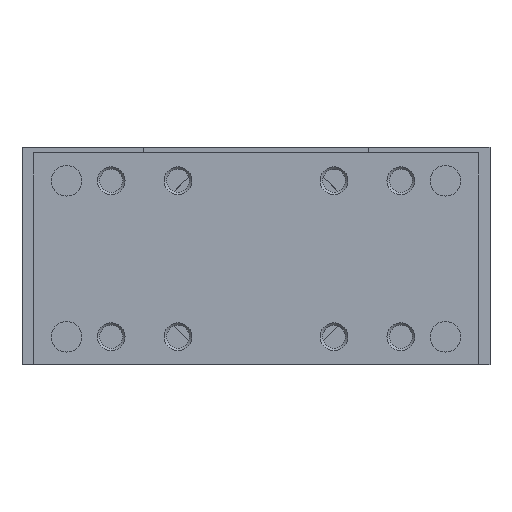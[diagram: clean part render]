
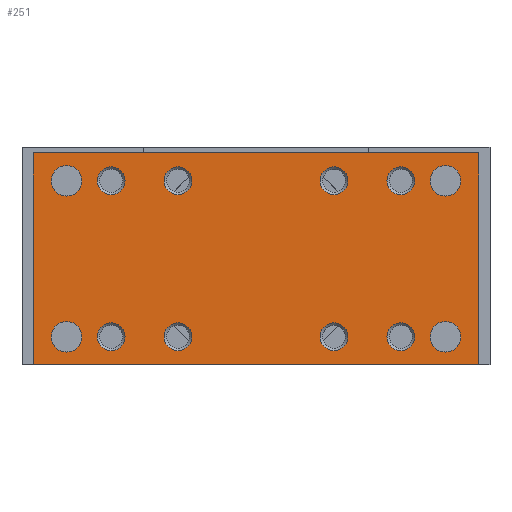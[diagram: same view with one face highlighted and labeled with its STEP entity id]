
A CAD part, left-side view. The second image highlights one B-rep face of the part: STEP entity #251.
In plain terms, the highlighted planar face has unit normal (-1, 0, 0).
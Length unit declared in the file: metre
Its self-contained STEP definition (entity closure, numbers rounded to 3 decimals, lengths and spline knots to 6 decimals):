
#251 = ADVANCED_FACE( '', ( #665, #666, #667, #668, #669, #670, #671, #672, #673, #674, #675, #676, #677 ), #678, .T. );
#665 = FACE_BOUND( '', #1411, .T. );
#666 = FACE_BOUND( '', #1412, .T. );
#667 = FACE_BOUND( '', #1413, .T. );
#668 = FACE_BOUND( '', #1414, .T. );
#669 = FACE_BOUND( '', #1415, .T. );
#670 = FACE_BOUND( '', #1416, .T. );
#671 = FACE_BOUND( '', #1417, .T. );
#672 = FACE_BOUND( '', #1418, .T. );
#673 = FACE_BOUND( '', #1419, .T. );
#674 = FACE_BOUND( '', #1420, .T. );
#675 = FACE_BOUND( '', #1421, .T. );
#676 = FACE_BOUND( '', #1422, .T. );
#677 = FACE_OUTER_BOUND( '', #1423, .T. );
#678 = PLANE( '', #1424 );
#1411 = EDGE_LOOP( '', ( #2205 ) );
#1412 = EDGE_LOOP( '', ( #2206 ) );
#1413 = EDGE_LOOP( '', ( #2207 ) );
#1414 = EDGE_LOOP( '', ( #2208 ) );
#1415 = EDGE_LOOP( '', ( #2209 ) );
#1416 = EDGE_LOOP( '', ( #2210 ) );
#1417 = EDGE_LOOP( '', ( #2211 ) );
#1418 = EDGE_LOOP( '', ( #2212 ) );
#1419 = EDGE_LOOP( '', ( #2213 ) );
#1420 = EDGE_LOOP( '', ( #2214 ) );
#1421 = EDGE_LOOP( '', ( #2215 ) );
#1422 = EDGE_LOOP( '', ( #2216 ) );
#1423 = EDGE_LOOP( '', ( #2217, #2218, #2219, #2220 ) );
#1424 = AXIS2_PLACEMENT_3D( '', #2221, #2222, #2223 );
#2205 = ORIENTED_EDGE( '', *, *, #3427, .F. );
#2206 = ORIENTED_EDGE( '', *, *, #3428, .F. );
#2207 = ORIENTED_EDGE( '', *, *, #3357, .F. );
#2208 = ORIENTED_EDGE( '', *, *, #3429, .F. );
#2209 = ORIENTED_EDGE( '', *, *, #3430, .T. );
#2210 = ORIENTED_EDGE( '', *, *, #3431, .F. );
#2211 = ORIENTED_EDGE( '', *, *, #3432, .F. );
#2212 = ORIENTED_EDGE( '', *, *, #3433, .T. );
#2213 = ORIENTED_EDGE( '', *, *, #3434, .T. );
#2214 = ORIENTED_EDGE( '', *, *, #3435, .F. );
#2215 = ORIENTED_EDGE( '', *, *, #3436, .F. );
#2216 = ORIENTED_EDGE( '', *, *, #3392, .T. );
#2217 = ORIENTED_EDGE( '', *, *, #3399, .T. );
#2218 = ORIENTED_EDGE( '', *, *, #3437, .T. );
#2219 = ORIENTED_EDGE( '', *, *, #3438, .T. );
#2220 = ORIENTED_EDGE( '', *, *, #3439, .T. );
#2221 = CARTESIAN_POINT( '', ( -0.069, -0.04, -0.000567 ) );
#2222 = DIRECTION( '', ( -1., 0., 0. ) );
#2223 = DIRECTION( '', ( 0., 0., 1. ) );
#3357 = EDGE_CURVE( '', #3824, #3824, #3825, .T. );
#3392 = EDGE_CURVE( '', #3886, #3886, #3887, .T. );
#3399 = EDGE_CURVE( '', #3897, #3895, #3898, .T. );
#3427 = EDGE_CURVE( '', #3942, #3942, #3943, .T. );
#3428 = EDGE_CURVE( '', #3944, #3944, #3945, .T. );
#3429 = EDGE_CURVE( '', #3946, #3946, #3947, .T. );
#3430 = EDGE_CURVE( '', #3948, #3948, #3949, .T. );
#3431 = EDGE_CURVE( '', #3950, #3950, #3951, .T. );
#3432 = EDGE_CURVE( '', #3952, #3952, #3953, .T. );
#3433 = EDGE_CURVE( '', #3954, #3954, #3955, .T. );
#3434 = EDGE_CURVE( '', #3956, #3956, #3957, .T. );
#3435 = EDGE_CURVE( '', #3958, #3958, #3959, .T. );
#3436 = EDGE_CURVE( '', #3960, #3960, #3961, .T. );
#3437 = EDGE_CURVE( '', #3895, #3962, #3963, .T. );
#3438 = EDGE_CURVE( '', #3962, #3964, #3965, .T. );
#3439 = EDGE_CURVE( '', #3964, #3897, #3966, .T. );
#3824 = VERTEX_POINT( '', #4508 );
#3825 = CIRCLE( '', #4509, 0.00275 );
#3886 = VERTEX_POINT( '', #4583 );
#3887 = CIRCLE( '', #4584, 0.0025 );
#3895 = VERTEX_POINT( '', #4593 );
#3897 = VERTEX_POINT( '', #4596 );
#3898 = LINE( '', #4597, #4598 );
#3942 = VERTEX_POINT( '', #4682 );
#3943 = CIRCLE( '', #4683, 0.00275 );
#3944 = VERTEX_POINT( '', #4684 );
#3945 = CIRCLE( '', #4685, 0.00275 );
#3946 = VERTEX_POINT( '', #4686 );
#3947 = CIRCLE( '', #4687, 0.00275 );
#3948 = VERTEX_POINT( '', #4688 );
#3949 = CIRCLE( '', #4689, 0.0025 );
#3950 = VERTEX_POINT( '', #4690 );
#3951 = CIRCLE( '', #4691, 0.0025 );
#3952 = VERTEX_POINT( '', #4692 );
#3953 = CIRCLE( '', #4693, 0.0025 );
#3954 = VERTEX_POINT( '', #4694 );
#3955 = CIRCLE( '', #4695, 0.0025 );
#3956 = VERTEX_POINT( '', #4696 );
#3957 = CIRCLE( '', #4697, 0.0025 );
#3958 = VERTEX_POINT( '', #4698 );
#3959 = CIRCLE( '', #4699, 0.0025 );
#3960 = VERTEX_POINT( '', #4700 );
#3961 = CIRCLE( '', #4701, 0.0025 );
#3962 = VERTEX_POINT( '', #4702 );
#3963 = LINE( '', #4703, #4704 );
#3964 = VERTEX_POINT( '', #4705 );
#3965 = LINE( '', #4706, #4707 );
#3966 = LINE( '', #4708, #4709 );
#4508 = CARTESIAN_POINT( '', ( -0.069, -0.034, -0.002817 ) );
#4509 = AXIS2_PLACEMENT_3D( '', #6108, #6109, #6110 );
#4583 = CARTESIAN_POINT( '', ( -0.069, 0.0165, -0.005567 ) );
#4584 = AXIS2_PLACEMENT_3D( '', #6163, #6164, #6165 );
#4593 = CARTESIAN_POINT( '', ( -0.069, -0.04, -0.000567 ) );
#4596 = CARTESIAN_POINT( '', ( -0.069, -0.04, -0.038567 ) );
#4597 = CARTESIAN_POINT( '', ( -0.069, -0.04, -0.038567 ) );
#4598 = VECTOR( '', #6171, 1. );
#4682 = CARTESIAN_POINT( '', ( -0.069, -0.034, -0.030817 ) );
#4683 = AXIS2_PLACEMENT_3D( '', #6209, #6210, #6211 );
#4684 = CARTESIAN_POINT( '', ( -0.069, 0.034, -0.030817 ) );
#4685 = AXIS2_PLACEMENT_3D( '', #6212, #6213, #6214 );
#4686 = CARTESIAN_POINT( '', ( -0.069, 0.034, -0.002817 ) );
#4687 = AXIS2_PLACEMENT_3D( '', #6215, #6216, #6217 );
#4688 = CARTESIAN_POINT( '', ( -0.069, -0.0285, -0.033567 ) );
#4689 = AXIS2_PLACEMENT_3D( '', #6218, #6219, #6220 );
#4690 = CARTESIAN_POINT( '', ( -0.069, 0.0285, -0.033567 ) );
#4691 = AXIS2_PLACEMENT_3D( '', #6221, #6222, #6223 );
#4692 = CARTESIAN_POINT( '', ( -0.069, -0.0285, -0.005567 ) );
#4693 = AXIS2_PLACEMENT_3D( '', #6224, #6225, #6226 );
#4694 = CARTESIAN_POINT( '', ( -0.069, 0.0285, -0.005567 ) );
#4695 = AXIS2_PLACEMENT_3D( '', #6227, #6228, #6229 );
#4696 = CARTESIAN_POINT( '', ( -0.069, -0.0165, -0.033567 ) );
#4697 = AXIS2_PLACEMENT_3D( '', #6230, #6231, #6232 );
#4698 = CARTESIAN_POINT( '', ( -0.069, 0.0165, -0.033567 ) );
#4699 = AXIS2_PLACEMENT_3D( '', #6233, #6234, #6235 );
#4700 = CARTESIAN_POINT( '', ( -0.069, -0.0165, -0.005567 ) );
#4701 = AXIS2_PLACEMENT_3D( '', #6236, #6237, #6238 );
#4702 = CARTESIAN_POINT( '', ( -0.069, 0.04, -0.000567 ) );
#4703 = CARTESIAN_POINT( '', ( -0.069, -0.04, -0.000567 ) );
#4704 = VECTOR( '', #6239, 1. );
#4705 = CARTESIAN_POINT( '', ( -0.069, 0.04, -0.038567 ) );
#4706 = CARTESIAN_POINT( '', ( -0.069, 0.04, -0.000567 ) );
#4707 = VECTOR( '', #6240, 1. );
#4708 = CARTESIAN_POINT( '', ( -0.069, 0.04, -0.038567 ) );
#4709 = VECTOR( '', #6241, 1. );
#6108 = CARTESIAN_POINT( '', ( -0.069, -0.034, -0.005567 ) );
#6109 = DIRECTION( '', ( -1., 0., 0. ) );
#6110 = DIRECTION( '', ( 0., 0., 1. ) );
#6163 = CARTESIAN_POINT( '', ( -0.069, 0.014, -0.005567 ) );
#6164 = DIRECTION( '', ( 1., 0., 0. ) );
#6165 = DIRECTION( '', ( 0., 1., 0. ) );
#6171 = DIRECTION( '', ( 0., 0., 1. ) );
#6209 = CARTESIAN_POINT( '', ( -0.069, -0.034, -0.033567 ) );
#6210 = DIRECTION( '', ( -1., 0., 0. ) );
#6211 = DIRECTION( '', ( 0., 0., 1. ) );
#6212 = CARTESIAN_POINT( '', ( -0.069, 0.034, -0.033567 ) );
#6213 = DIRECTION( '', ( -1., 0., 0. ) );
#6214 = DIRECTION( '', ( 0., 0., 1. ) );
#6215 = CARTESIAN_POINT( '', ( -0.069, 0.034, -0.005567 ) );
#6216 = DIRECTION( '', ( -1., 0., 0. ) );
#6217 = DIRECTION( '', ( 0., 0., 1. ) );
#6218 = CARTESIAN_POINT( '', ( -0.069, -0.026, -0.033567 ) );
#6219 = DIRECTION( '', ( 1., 0., 0. ) );
#6220 = DIRECTION( '', ( 0., -1., 0. ) );
#6221 = CARTESIAN_POINT( '', ( -0.069, 0.026, -0.033567 ) );
#6222 = DIRECTION( '', ( -1., 0., 0. ) );
#6223 = DIRECTION( '', ( 0., 1., 0. ) );
#6224 = CARTESIAN_POINT( '', ( -0.069, -0.026, -0.005567 ) );
#6225 = DIRECTION( '', ( -1., 0., 0. ) );
#6226 = DIRECTION( '', ( 0., -1., 0. ) );
#6227 = CARTESIAN_POINT( '', ( -0.069, 0.026, -0.005567 ) );
#6228 = DIRECTION( '', ( 1., 0., 0. ) );
#6229 = DIRECTION( '', ( 0., 1., 0. ) );
#6230 = CARTESIAN_POINT( '', ( -0.069, -0.014, -0.033567 ) );
#6231 = DIRECTION( '', ( 1., 0., 0. ) );
#6232 = DIRECTION( '', ( 0., -1., 0. ) );
#6233 = CARTESIAN_POINT( '', ( -0.069, 0.014, -0.033567 ) );
#6234 = DIRECTION( '', ( -1., 0., 0. ) );
#6235 = DIRECTION( '', ( 0., 1., 0. ) );
#6236 = CARTESIAN_POINT( '', ( -0.069, -0.014, -0.005567 ) );
#6237 = DIRECTION( '', ( -1., 0., 0. ) );
#6238 = DIRECTION( '', ( 0., -1., 0. ) );
#6239 = DIRECTION( '', ( 0., 1., 0. ) );
#6240 = DIRECTION( '', ( 0., 0., -1. ) );
#6241 = DIRECTION( '', ( 0., -1., 0. ) );
